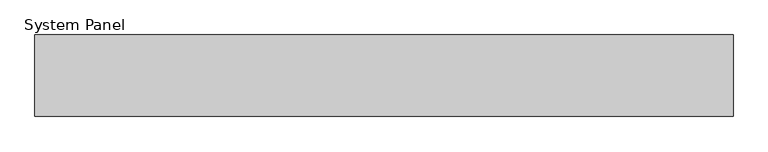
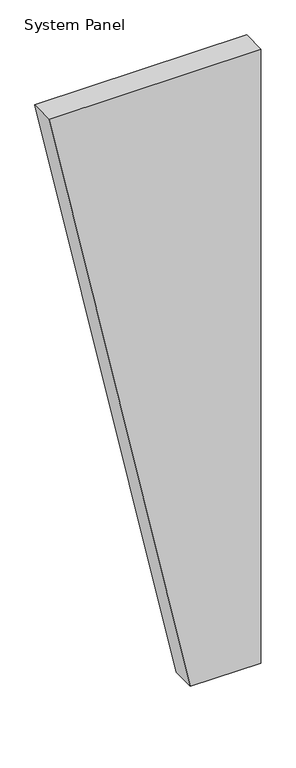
"""IFC4 building model written with IfcOpenShell, lengths in millimetres: plate geometry, System Panel : InsulWall_140mm_Plain_Surfmist."""

from ifc_helpers import new_model, si_unit, frame, origin, place, context, project, spatial, polyline, outline, extrude, source, transform, mapped, element, save


def system_panel_83c28597(model_context):
    return source(origin(), model_context, "Body", "SweptSolid", [
        extrude(outline(polyline([(0.0, 200.0), (0.0, 600.0), (3679.9704237, 600.0), (3679.9704237, -600.0), (0.0, 200.0)])), frame((0.0, -140.0, 0.0), z_axis=(0.0, 1.0, 0.0), x_axis=(0.0, 0.0, 1.0)), (0.0, 0.0, 1.0), 140.0),
    ])


if __name__ == "__main__":
    model = new_model("IFC4")
    model_context = context("Model", 3, world=origin())
    ifc_project = project(units=[si_unit("LENGTHUNIT", "METRE", prefix="MILLI")], contexts=[model_context])
    site = spatial("IfcSite", under=ifc_project)
    building = spatial("IfcBuilding", under=site)
    placement = place(None, origin())
    system_panel_shape = system_panel_83c28597(model_context)
    element("IfcPlate", 1, ObjectType="System Panel : InsulWall_140mm_Plain_Surfmist", at=placement, inside=building, context=model_context, shape_type="MappedRepresentation", body=[
        mapped(system_panel_shape, transform((0.0, 0.0, 0.0), x_axis=(1.0, 0.0, 0.0), y_axis=(0.0, 1.0, 0.0), z_axis=(0.0, 0.0, 1.0))),
    ])
    save(model, "model.ifc")
